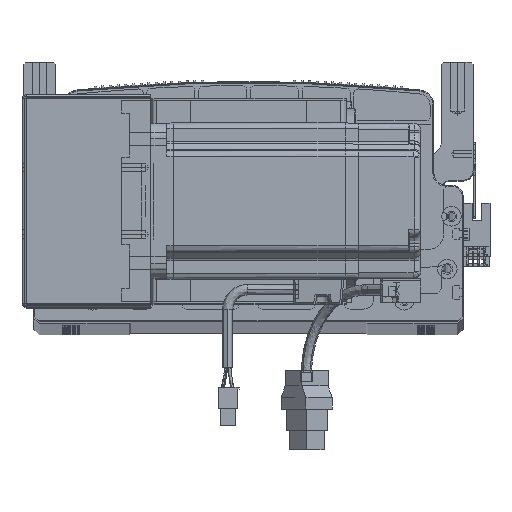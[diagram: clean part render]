
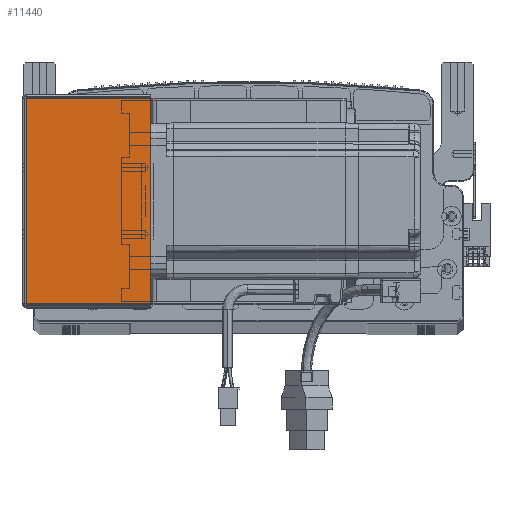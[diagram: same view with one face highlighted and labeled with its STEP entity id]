
A CAD part, top view. The second image highlights one B-rep face of the part: STEP entity #11440.
In plain terms, the highlighted planar face has unit normal (0, 0, 1) as drawn and (0, 0, -1) by its records, which use the part's own axes.
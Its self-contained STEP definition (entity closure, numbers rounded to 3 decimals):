
#669 = ORIENTED_EDGE ( 'NONE', *, *, #63396, .T. ) ;
#1385 = LINE ( 'NONE', #20364, #54925 ) ;
#5473 = CARTESIAN_POINT ( 'NONE',  ( 0.737, 0.707, -205.5 ) ) ;
#7923 = CARTESIAN_POINT ( 'NONE',  ( 0., 0.707, -205.5 ) ) ;
#11440 = ADVANCED_FACE ( 'NONE', ( #70620 ), #17734, .F. ) ;
#17734 = PLANE ( 'NONE',  #75993 ) ;
#18376 = LINE ( 'NONE', #49523, #46321 ) ;
#18774 = VERTEX_POINT ( 'NONE', #86723 ) ;
#20364 = CARTESIAN_POINT ( 'NONE',  ( 0.737, 0., -205.5 ) ) ;
#22204 = VECTOR ( 'NONE', #71796, 1000. ) ;
#23454 = EDGE_CURVE ( 'NONE', #18774, #94823, #18376, .T. ) ;
#24547 = CARTESIAN_POINT ( 'NONE',  ( 0.737, 105.293, -205.5 ) ) ;
#25535 = CARTESIAN_POINT ( 'NONE',  ( 0., 0., -205.5 ) ) ;
#29472 = EDGE_CURVE ( 'NONE', #52807, #83092, #1385, .T. ) ;
#32381 = ORIENTED_EDGE ( 'NONE', *, *, #100011, .F. ) ;
#34467 = VECTOR ( 'NONE', #93258, 1000. ) ;
#36343 = DIRECTION ( 'NONE',  ( 0., -1., 0. ) ) ;
#38399 = ORIENTED_EDGE ( 'NONE', *, *, #29472, .F. ) ;
#43005 = ORIENTED_EDGE ( 'NONE', *, *, #23454, .T. ) ;
#46321 = VECTOR ( 'NONE', #90405, 1000. ) ;
#49523 = CARTESIAN_POINT ( 'NONE',  ( 64.5, 0., -205.5 ) ) ;
#52807 = VERTEX_POINT ( 'NONE', #24547 ) ;
#54925 = VECTOR ( 'NONE', #36343, 1000. ) ;
#55287 = LINE ( 'NONE', #7923, #34467 ) ;
#59792 = CARTESIAN_POINT ( 'NONE',  ( 64.5, 0.707, -205.5 ) ) ;
#63396 = EDGE_CURVE ( 'NONE', #52807, #18774, #90422, .T. ) ;
#65685 = DIRECTION ( 'NONE',  ( 0., 0., 1. ) ) ;
#70367 = EDGE_LOOP ( 'NONE', ( #38399, #669, #43005, #32381 ) ) ;
#70620 = FACE_OUTER_BOUND ( 'NONE', #70367, .T. ) ;
#71796 = DIRECTION ( 'NONE',  ( 1., 0., 0. ) ) ;
#75993 = AXIS2_PLACEMENT_3D ( 'NONE', #25535, #65685, #81369 ) ;
#81369 = DIRECTION ( 'NONE',  ( 1., 0., 0. ) ) ;
#83092 = VERTEX_POINT ( 'NONE', #5473 ) ;
#86723 = CARTESIAN_POINT ( 'NONE',  ( 64.5, 105.293, -205.5 ) ) ;
#90405 = DIRECTION ( 'NONE',  ( 0., -1., 0. ) ) ;
#90422 = LINE ( 'NONE', #94589, #22204 ) ;
#93258 = DIRECTION ( 'NONE',  ( 1., 0., 0. ) ) ;
#94589 = CARTESIAN_POINT ( 'NONE',  ( 0., 105.293, -205.5 ) ) ;
#94823 = VERTEX_POINT ( 'NONE', #59792 ) ;
#100011 = EDGE_CURVE ( 'NONE', #83092, #94823, #55287, .T. ) ;
